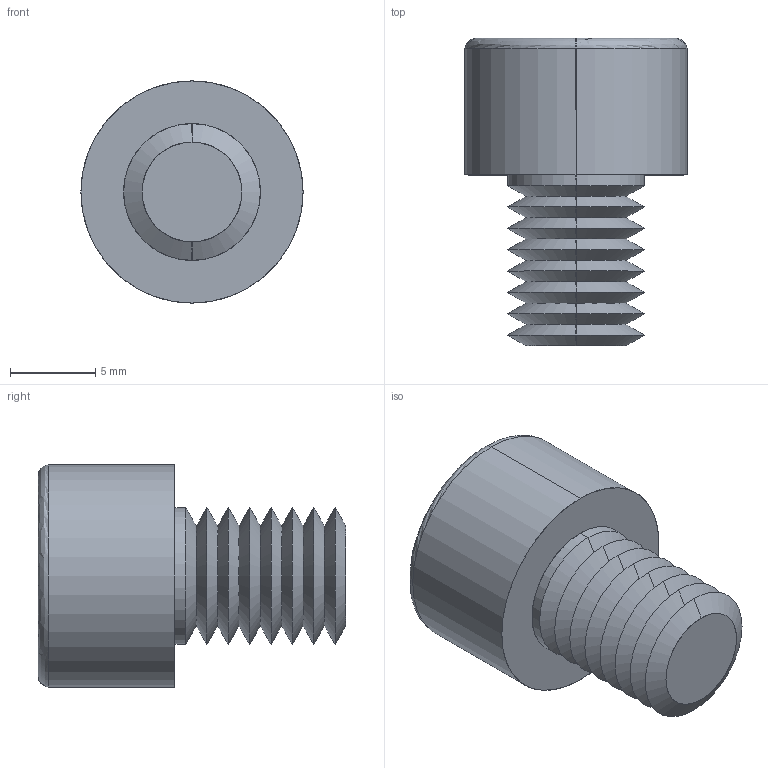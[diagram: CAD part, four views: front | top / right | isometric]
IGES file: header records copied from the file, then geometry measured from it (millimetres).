
Start section: SolidWorks IGES file using analytic representation for surfaces
Global section: file name: C:\Users\ianosborn\Desktop\N0007.91N_v2\N0007.91N_v2_20250519_IGES\91N.080.0100.igs; native system: SolidWorks 2019; preprocessor: SolidWorks 2019; author: IanOsborn; date: 250520.095343; units: millimetre
Bounding box: 13 x 18 x 13 mm (x, y, z)
Surface area: 1108.3 mm2 (no closed solid volume)
Topology: 0 solids, 0 shells, 60 faces, 437 edges, 435 vertices
Faces by surface type: revolution 43, bspline 17
